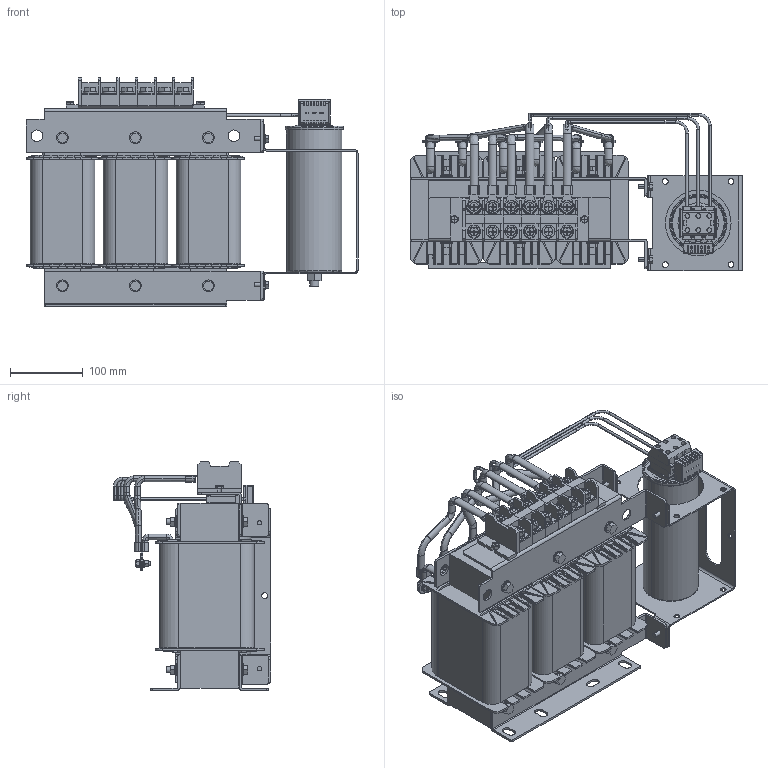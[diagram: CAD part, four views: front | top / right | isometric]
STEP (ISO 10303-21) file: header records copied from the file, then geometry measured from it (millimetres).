
FILE_DESCRIPTION (( 'STEP AP203' ), '1' );
FILE_NAME ('蔓躅漤铋 耔眢耥 翳朦蝠 _ ISINOF-30_63-4.STEP', '2026-07-17T10:25:39', ( '' ), ( '' ), 'SwSTEP 2.0', 'SolidWorks 2021', '' );
FILE_SCHEMA (( 'CONFIG_CONTROL_DESIGN' ));
Length unit declared in the file: inch
Products named in the file (281): 30KW滤波电抗器380V50Hz_232; 30KW滤波电抗器380V50Hz_27; 30KW滤波电抗器380V50Hz_275; 30KW滤波电抗器380V50Hz_138; 30KW滤波电抗器380V50Hz_85; 30KW滤波电抗器380V50Hz_79; 30KW滤波电抗器380V50Hz_146; 30KW滤波电抗器380V50Hz_276; 30KW滤波电抗器380V50Hz_105; 30KW滤波电抗器380V50Hz_43; 30KW滤波电抗器380V50Hz_46; 30KW滤波电抗器380V50Hz_145; 30KW滤波电抗器380V50Hz_31; 30KW滤波电抗器380V50Hz_159; 30KW滤波电抗器380V50Hz_48; 30KW滤波电抗器380V50Hz; 30KW滤波电抗器380V50Hz_8; 30KW滤波电抗器380V50Hz_214; 30KW滤波电抗器380V50Hz_87; 30KW滤波电抗器380V50Hz_244; 30KW滤波电抗器380V50Hz_131; 30KW滤波电抗器380V50Hz_222; 30KW滤波电抗器380V50Hz_7; 30KW滤波电抗器380V50Hz_129; 30KW滤波电抗器380V50Hz_113; 30KW滤波电抗器380V50Hz_249; 30KW滤波电抗器380V50Hz_116; 30KW滤波电抗器380V50Hz_184; 30KW滤波电抗器380V50Hz_50; 30KW滤波电抗器380V50Hz_133; 30KW滤波电抗器380V50Hz_53; 30KW滤波电抗器380V50Hz_177; 30KW滤波电抗器380V50Hz_19; 30KW滤波电抗器380V50Hz_272; 30KW滤波电抗器380V50Hz_253; 30KW滤波电抗器380V50Hz_148; 30KW滤波电抗器380V50Hz_119; 30KW滤波电抗器380V50Hz_163; 30KW滤波电抗器380V50Hz_239; 30KW滤波电抗器380V50Hz_208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
Assembly tree (280 placements, depth 2):
  蔓躅漤铋 耔眢耥 翳朦蝠 _ ISINOF-30_63-4
    30KW滤波电抗器380V50Hz_31
    30KW滤波电抗器380V50Hz_211
    30KW滤波电抗器380V50Hz_13
    30KW滤波电抗器380V50Hz_145
    30KW滤波电抗器380V50Hz_111
    30KW滤波电抗器380V50Hz_78
    30KW滤波电抗器380V50Hz_232
    30KW滤波电抗器380V50Hz_61
    30KW滤波电抗器380V50Hz_212
    30KW滤波电抗器380V50Hz_225
    30KW滤波电抗器380V50Hz_119
    30KW滤波电抗器380V50Hz_183
    30KW滤波电抗器380V50Hz_132
    30KW滤波电抗器380V50Hz_25
    30KW滤波电抗器380V50Hz_191
    30KW滤波电抗器380V50Hz_58
    30KW滤波电抗器380V50Hz_192
    30KW滤波电抗器380V50Hz_175
    30KW滤波电抗器380V50Hz_98
    30KW滤波电抗器380V50Hz_29
    30KW滤波电抗器380V50Hz_274
    30KW滤波电抗器380V50Hz_214
    30KW滤波电抗器380V50Hz_198
    30KW滤波电抗器380V50Hz_167
    30KW滤波电抗器380V50Hz_48
    30KW滤波电抗器380V50Hz_81
    30KW滤波电抗器380V50Hz_220
    30KW滤波电抗器380V50Hz_173
    30KW滤波电抗器380V50Hz_96
    30KW滤波电抗器380V50Hz_23
    30KW滤波电抗器380V50Hz_121
    30KW滤波电抗器380V50Hz_47
    30KW滤波电抗器380V50Hz_91
    30KW滤波电抗器380V50Hz_66
    30KW滤波电抗器380V50Hz_269
    30KW滤波电抗器380V50Hz_226
    30KW滤波电抗器380V50Hz_65
    30KW滤波电抗器380V50Hz_186
    30KW滤波电抗器380V50Hz_172
    30KW滤波电抗器380V50Hz_215
    30KW滤波电抗器380V50Hz_44
    30KW滤波电抗器380V50Hz_251
    30KW滤波电抗器380V50Hz_97
    30KW滤波电抗器380V50Hz_182
    30KW滤波电抗器380V50Hz_40
    30KW滤波电抗器380V50Hz_76
    30KW滤波电抗器380V50Hz_59
    30KW滤波电抗器380V50Hz_259
    30KW滤波电抗器380V50Hz_130
    30KW滤波电抗器380V50Hz_136
    30KW滤波电抗器380V50Hz_38
    30KW滤波电抗器380V50Hz_128
    30KW滤波电抗器380V50Hz_10
    30KW滤波电抗器380V50Hz_189
    30KW滤波电抗器380V50Hz_206
    30KW滤波电抗器380V50Hz_117
    30KW滤波电抗器380V50Hz_18
    30KW滤波电抗器380V50Hz_129
    30KW滤波电抗器380V50Hz_56
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Bounding box: 455 x 215.26 x 313 mm (x, y, z)
Volume: 8515968 mm3; surface area: 1590568.4 mm2
Topology: 280 solids, 280 shells, 3623 faces, 8862 edges, 5819 vertices
Faces by surface type: plane 2461, cylinder 836, bspline 155, cone 146, torus 25
Entity records: 148080 total; most frequent: CARTESIAN_POINT 33005, ORIENTED_EDGE 17724, DIRECTION 16567, EDGE_CURVE 8862, LINE 6359, VECTOR 6359, VERTEX_POINT 5819, AXIS2_PLACEMENT_3D 5104
